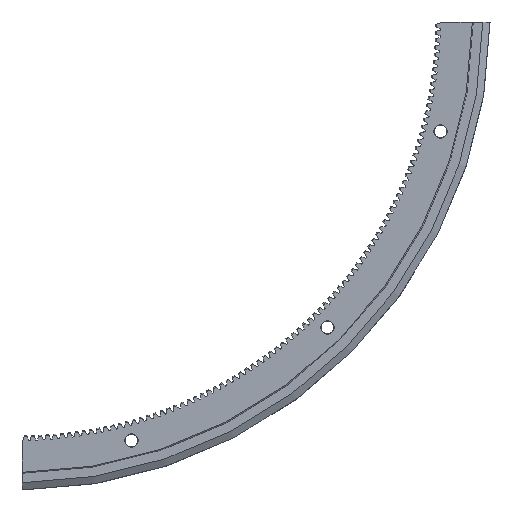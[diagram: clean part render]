
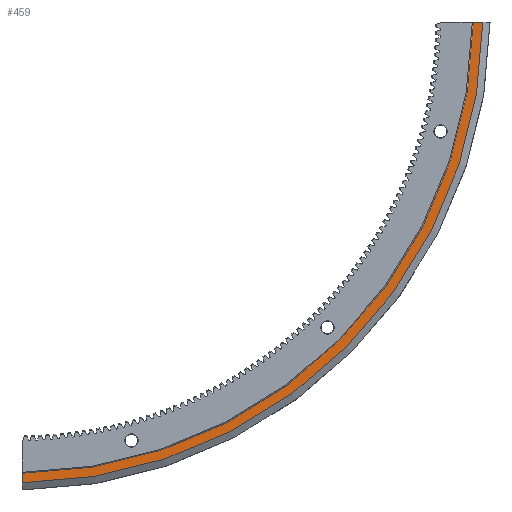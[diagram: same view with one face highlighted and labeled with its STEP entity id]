
A CAD part, front view. The second image highlights one B-rep face of the part: STEP entity #459.
In plain terms, the highlighted planar face has unit normal (0, -1, 0).
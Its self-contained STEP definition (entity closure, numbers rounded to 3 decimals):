
#459 = ADVANCED_FACE( '', ( #1329 ), #1330, .T. );
#1329 = FACE_OUTER_BOUND( '', #2287, .T. );
#1330 = PLANE( '', #2288 );
#2287 = EDGE_LOOP( '', ( #5670, #5671, #5672, #5673 ) );
#2288 = AXIS2_PLACEMENT_3D( '', #5674, #5675, #5676 );
#5670 = ORIENTED_EDGE( '', *, *, #7541, .T. );
#5671 = ORIENTED_EDGE( '', *, *, #7933, .T. );
#5672 = ORIENTED_EDGE( '', *, *, #7934, .F. );
#5673 = ORIENTED_EDGE( '', *, *, #7534, .T. );
#5674 = CARTESIAN_POINT( '', ( 0., 9.5, -243.15 ) );
#5675 = DIRECTION( '', ( 0., -1., 0. ) );
#5676 = DIRECTION( '', ( 0., 0., -1. ) );
#7534 = EDGE_CURVE( '', #9814, #9812, #9815, .T. );
#7541 = EDGE_CURVE( '', #9812, #9825, #9827, .T. );
#7933 = EDGE_CURVE( '', #9825, #10240, #10241, .T. );
#7934 = EDGE_CURVE( '', #9814, #10240, #10242, .T. );
#9812 = VERTEX_POINT( '', #13384 );
#9814 = VERTEX_POINT( '', #13389 );
#9815 = LINE( '', #13390, #13391 );
#9825 = VERTEX_POINT( '', #13407 );
#9827 = CIRCLE( '', #13412, 248.836 );
#10240 = VERTEX_POINT( '', #13840 );
#10241 = LINE( '', #13841, #13842 );
#10242 = CIRCLE( '', #13843, 243.15 );
#13384 = CARTESIAN_POINT( '', ( 2., 9.5, -248.828 ) );
#13389 = CARTESIAN_POINT( '', ( 2., 9.5, -243.142 ) );
#13390 = CARTESIAN_POINT( '', ( 2., 9.5, -243.15 ) );
#13391 = VECTOR( '', #14651, 1000. );
#13407 = CARTESIAN_POINT( '', ( 248.828, 9.5, -2. ) );
#13412 = AXIS2_PLACEMENT_3D( '', #14658, #14659, #14660 );
#13840 = CARTESIAN_POINT( '', ( 243.142, 9.5, -2. ) );
#13841 = CARTESIAN_POINT( '', ( 0., 9.5, -2. ) );
#13842 = VECTOR( '', #15821, 1000. );
#13843 = AXIS2_PLACEMENT_3D( '', #15822, #15823, #15824 );
#14651 = DIRECTION( '', ( 0., 0., -1. ) );
#14658 = CARTESIAN_POINT( '', ( 0., 9.5, 0. ) );
#14659 = DIRECTION( '', ( 0., -1., 0. ) );
#14660 = DIRECTION( '', ( 0., 0., -1. ) );
#15821 = DIRECTION( '', ( -1., 0., 0. ) );
#15822 = CARTESIAN_POINT( '', ( 0., 9.5, 0. ) );
#15823 = DIRECTION( '', ( 0., -1., 0. ) );
#15824 = DIRECTION( '', ( 0., 0., -1. ) );
